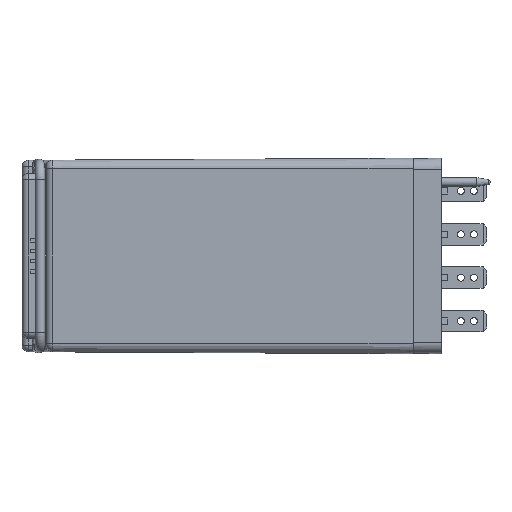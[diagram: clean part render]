
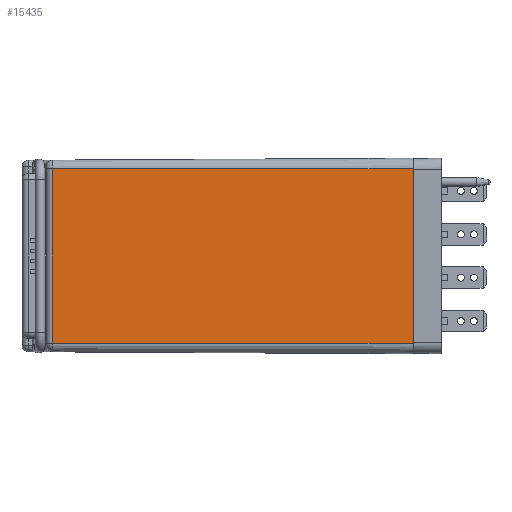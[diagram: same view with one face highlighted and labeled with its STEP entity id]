
A CAD part, front view. The second image highlights one B-rep face of the part: STEP entity #15435.
In plain terms, the highlighted planar face has unit normal (-0.005, -1, 0).
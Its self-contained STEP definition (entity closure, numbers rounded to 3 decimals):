
#533 = CARTESIAN_POINT ( 'NONE',  ( -82.108, -4.965, 20.1 ) ) ;
#2949 = DIRECTION ( 'NONE',  ( -1., 0.005, 0. ) ) ;
#3663 = PLANE ( 'NONE',  #16287 ) ;
#3870 = FACE_OUTER_BOUND ( 'NONE', #12219, .T. ) ;
#4717 = ORIENTED_EDGE ( 'NONE', *, *, #8277, .F. ) ;
#5158 = LINE ( 'NONE', #14793, #13630 ) ;
#5171 = CARTESIAN_POINT ( 'NONE',  ( 0.9, -5.4, 20.1 ) ) ;
#5296 = DIRECTION ( 'NONE',  ( 1., -0.005, 0. ) ) ;
#5377 = CARTESIAN_POINT ( 'NONE',  ( 0.9, -5.4, 20.1 ) ) ;
#6012 = ORIENTED_EDGE ( 'NONE', *, *, #13172, .F. ) ;
#7054 = DIRECTION ( 'NONE',  ( 1., -0.005, 0. ) ) ;
#7679 = CARTESIAN_POINT ( 'NONE',  ( 0.9, -5.4, -20.1 ) ) ;
#7691 = VERTEX_POINT ( 'NONE', #5171 ) ;
#7940 = ORIENTED_EDGE ( 'NONE', *, *, #10547, .T. ) ;
#8277 = EDGE_CURVE ( 'NONE', #10124, #7691, #17364, .T. ) ;
#8410 = VERTEX_POINT ( 'NONE', #9064 ) ;
#8786 = LINE ( 'NONE', #13153, #9322 ) ;
#9064 = CARTESIAN_POINT ( 'NONE',  ( -82.108, -4.965, -20.1 ) ) ;
#9233 = CARTESIAN_POINT ( 'NONE',  ( 0.9, -5.4, 20.1 ) ) ;
#9322 = VECTOR ( 'NONE', #16627, 1000. ) ;
#10124 = VERTEX_POINT ( 'NONE', #533 ) ;
#10547 = EDGE_CURVE ( 'NONE', #10124, #8410, #8786, .T. ) ;
#12219 = EDGE_LOOP ( 'NONE', ( #4717, #7940, #18591, #6012 ) ) ;
#13153 = CARTESIAN_POINT ( 'NONE',  ( -82.108, -4.965, 20.1 ) ) ;
#13172 = EDGE_CURVE ( 'NONE', #7691, #20061, #19345, .T. ) ;
#13630 = VECTOR ( 'NONE', #2949, 1000. ) ;
#14793 = CARTESIAN_POINT ( 'NONE',  ( 499000., -2618.177, -20.1 ) ) ;
#14813 = VECTOR ( 'NONE', #16045, 1000. ) ;
#15435 = ADVANCED_FACE ( 'NONE', ( #3870 ), #3663, .T. ) ;
#16045 = DIRECTION ( 'NONE',  ( 0., 0., -1. ) ) ;
#16287 = AXIS2_PLACEMENT_3D ( 'NONE', #5377, #17224, #7054 ) ;
#16414 = EDGE_CURVE ( 'NONE', #20061, #8410, #5158, .T. ) ;
#16627 = DIRECTION ( 'NONE',  ( 0., 0., -1. ) ) ;
#17224 = DIRECTION ( 'NONE',  ( -0.005, -1., 0. ) ) ;
#17364 = LINE ( 'NONE', #18851, #21863 ) ;
#18591 = ORIENTED_EDGE ( 'NONE', *, *, #16414, .F. ) ;
#18851 = CARTESIAN_POINT ( 'NONE',  ( 499000., -2618.177, 20.1 ) ) ;
#19345 = LINE ( 'NONE', #9233, #14813 ) ;
#20061 = VERTEX_POINT ( 'NONE', #7679 ) ;
#21863 = VECTOR ( 'NONE', #5296, 1000. ) ;
